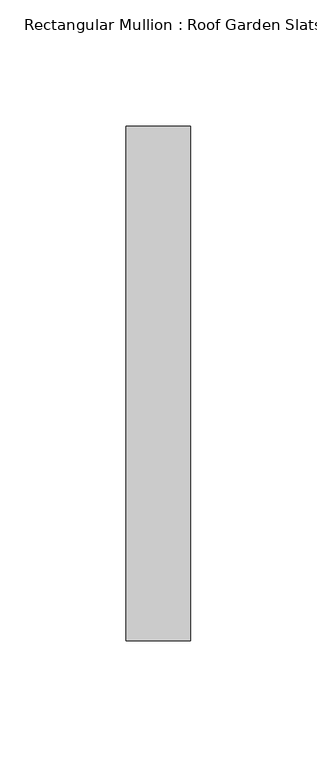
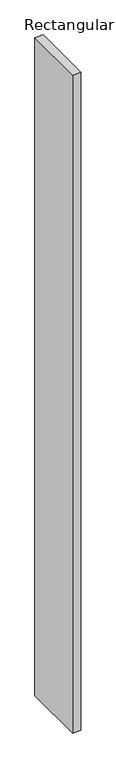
"""IFC4 building model written with IfcOpenShell, lengths in millimetres: member geometry, Rectangular Mullion : Roof Garden Slats."""

import ifcopenshell
import ifcopenshell.guid

model = None  # the IFC model being written
_history = None  # IfcOwnerHistory: only IFC2X3 demands one
_inside = {}  # id of a spatial element -> (the spatial element, [elements in it])
_under = {}  # id of a project, library or spatial element -> (it, [spatial elements below it])
_declared = {}  # id of a project -> (the project, [libraries it declares])
_typed = {}  # id of a type object -> (the type object, [elements of that type])
_made_of = {}  # id of a material, layer set ... -> (it, [elements and type objects made of it])


def new_model(schema):
    """Start an empty IFC model of exactly this schema.

    Asked for "IFC4X3", IfcOpenShell would pick the latest addendum, in which some entities
    have other attributes; the version numbers below select the first issue.
    IFC2X3 requires an IfcOwnerHistory on every rooted entity: one is made here for all.
    """
    global model, _history
    if schema == "IFC4X3":
        model = ifcopenshell.file(schema_version=(4, 3, 0, 0))
    else:
        model = ifcopenshell.file(schema=schema)
    _inside.clear()
    _under.clear()
    _declared.clear()
    _typed.clear()
    _made_of.clear()
    _history = None
    if model.schema == "IFC2X3":
        org = make("IfcOrganization", Name="unknown")
        user = make(
            "IfcPersonAndOrganization",
            ThePerson=make("IfcPerson", FamilyName="unknown"),
            TheOrganization=org,
        )
        app = make(
            "IfcApplication",
            ApplicationDeveloper=org,
            Version="unknown",
            ApplicationFullName="unknown",
            ApplicationIdentifier="unknown",
        )
        _history = make(
            "IfcOwnerHistory",
            OwningUser=user,
            OwningApplication=app,
            ChangeAction="ADDED",
            CreationDate=0,
        )
    return model


def make(cls, **values):
    """One entity of the class cls with the attributes given. An attribute that is None is left unset."""
    return model.create_entity(
        cls, **{name: value for name, value in values.items() if value is not None}
    )


def rooted(cls, **values):
    """An entity with a GlobalId (a new one), such as an element, a storey or a relation."""
    return make(cls, GlobalId=ifcopenshell.guid.new(), OwnerHistory=_history, **values)


def si_unit(unit_type, name, prefix=None):
    """IfcSIUnit, for example si_unit("LENGTHUNIT", "METRE", prefix="MILLI")."""
    return make("IfcSIUnit", UnitType=unit_type, Prefix=prefix, Name=name)


def assignment(units):
    """IfcUnitAssignment: the units of a project."""
    return None if units is None else make("IfcUnitAssignment", Units=units)


def point(xyz):
    """IfcCartesianPoint."""
    return None if xyz is None else make("IfcCartesianPoint", Coordinates=xyz)


def direction(xyz):
    """IfcDirection."""
    return None if xyz is None else make("IfcDirection", DirectionRatios=xyz)


def frame(location, z_axis=None, x_axis=None):
    """IfcAxis2Placement3D, a coordinate frame: its origin and axes. An axis left out is left unset."""
    return make(
        "IfcAxis2Placement3D",
        Location=point(location),
        Axis=direction(z_axis),
        RefDirection=direction(x_axis),
    )


def origin():
    """The frame at (0, 0, 0) with its axes left unset."""
    return frame((0.0, 0.0, 0.0))


def place(relative_to, where):
    """IfcLocalPlacement: puts the frame where relative to a parent placement (None: the world)."""
    return make(
        "IfcLocalPlacement", PlacementRelTo=relative_to, RelativePlacement=where
    )


def context(
    kind, dimensions, precision=None, world=None, true_north=None, identifier=None
):
    """IfcGeometricRepresentationContext, for example the 3D "Model" context."""
    return make(
        "IfcGeometricRepresentationContext",
        ContextIdentifier=identifier,
        ContextType=kind,
        CoordinateSpaceDimension=dimensions,
        Precision=precision,
        WorldCoordinateSystem=world,
        TrueNorth=true_north,
    )


def project(units=None, contexts=None):
    """IfcProject with its units and contexts."""
    return rooted(
        "IfcProject",
        Name="project",
        RepresentationContexts=contexts,
        UnitsInContext=assignment(units),
    )


def spatial(cls, under=None, at=None, **own):
    """A site, building, storey or space (cls), placed at a placement, below another one or the project."""
    s = rooted(cls, ObjectPlacement=at, **own)
    if under is not None:
        _under.setdefault(under.id(), (under, []))[1].append(s)
    return s


def polyline(points):
    """IfcPolyline through the points."""
    return make("IfcPolyline", Points=[point(p) for p in points])


def outline(outer, holes=None, kind="AREA"):
    """IfcArbitraryClosedProfileDef: a profile drawn as a closed curve; with holes, ...WithVoids."""
    if holes is None:
        return make("IfcArbitraryClosedProfileDef", ProfileType=kind, OuterCurve=outer)
    return make(
        "IfcArbitraryProfileDefWithVoids",
        ProfileType=kind,
        OuterCurve=outer,
        InnerCurves=holes,
    )


def extrude(swept, where, along, depth):
    """IfcExtrudedAreaSolid: the profile swept, set in the frame where, extruded along a direction by depth."""
    return make(
        "IfcExtrudedAreaSolid",
        SweptArea=swept,
        Position=where,
        ExtrudedDirection=direction(along),
        Depth=depth,
    )


def shape(context_of_items, identifier, shape_type, items):
    """IfcShapeRepresentation: the items that make up one representation, for example the "Body"."""
    return make(
        "IfcShapeRepresentation",
        ContextOfItems=context_of_items,
        RepresentationIdentifier=identifier,
        RepresentationType=shape_type,
        Items=items,
    )


def source(mapping_origin, context_of_items, identifier, shape_type, items):
    """IfcRepresentationMap: a shape defined once, which mapped items show again and again."""
    return make(
        "IfcRepresentationMap",
        MappingOrigin=mapping_origin,
        MappedRepresentation=shape(context_of_items, identifier, shape_type, items),
    )


def transform(
    local_origin,
    x_axis=None,
    y_axis=None,
    z_axis=None,
    scale=None,
    scale2=None,
    scale3=None,
    uniform=True,
):
    """IfcCartesianTransformationOperator3D, or its non-uniform kind. x_axis, y_axis, z_axis: its Axis1, 2, 3."""
    if uniform:
        return make(
            "IfcCartesianTransformationOperator3D",
            Axis1=direction(x_axis),
            Axis2=direction(y_axis),
            LocalOrigin=point(local_origin),
            Scale=scale,
            Axis3=direction(z_axis),
        )
    return make(
        "IfcCartesianTransformationOperator3DnonUniform",
        Axis1=direction(x_axis),
        Axis2=direction(y_axis),
        LocalOrigin=point(local_origin),
        Scale=scale,
        Axis3=direction(z_axis),
        Scale2=scale2,
        Scale3=scale3,
    )


def mapped(mapping_source, mapping_target):
    """IfcMappedItem: shows the shape of a source again, moved by a transform."""
    return make(
        "IfcMappedItem", MappingSource=mapping_source, MappingTarget=mapping_target
    )


def made_of(thing, what):
    """Note that an element or type object is made of a material, layer set ...; save() writes the relation."""
    if what is not None:
        _made_of.setdefault(what.id(), (what, []))[1].append(thing)
    return thing


def element(
    cls,
    number,
    at=None,
    inside=None,
    cuts=None,
    type_object=None,
    material=None,
    context=None,
    identifier="Body",
    shape_type=None,
    held_by="IfcProductDefinitionShape",
    body=None,
    shapes=None,
    **own,
):
    """One element of the class cls, such as IfcWall. Its Tag is "e" and its number.

    at: its placement. inside: the storey or other place that contains it. cuts: it is an
    opening in that element (IfcRelVoidsElement). A single representation is given by context,
    identifier, shape_type and body (its items); several are given by shapes. held_by: the class
    of the entity that holds the representations. save() writes the other relations.
    """
    e = rooted(cls, Tag="e%d" % number, ObjectPlacement=at, **own)
    if body is not None:
        shapes = [shape(context, identifier, shape_type, body)]
    if shapes is not None:
        e.Representation = make(held_by, Representations=shapes)
    if inside is not None:
        _inside.setdefault(inside.id(), (inside, []))[1].append(e)
    if cuts is not None:
        rooted(
            "IfcRelVoidsElement", RelatingBuildingElement=cuts, RelatedOpeningElement=e
        )
    if type_object is not None:
        _typed.setdefault(type_object.id(), (type_object, []))[1].append(e)
    return made_of(e, material)


def aggregate(whole, parts):
    """IfcRelAggregates: a whole, such as a stair, and the parts it consists of."""
    return rooted("IfcRelAggregates", RelatingObject=whole, RelatedObjects=parts)


def save(model, path):
    """Write the relations noted so far, then the file.

    IfcRelAggregates (storeys below a building ...), IfcRelContainedInSpatialStructure (elements
    in a storey), IfcRelDefinesByType, IfcRelAssociatesMaterial and IfcRelDeclares: one each for
    every whole, place, type object, material and project.
    """
    for whole, parts in _under.values():
        aggregate(whole, parts)
    for where, things in _inside.values():
        rooted(
            "IfcRelContainedInSpatialStructure",
            RelatedElements=things,
            RelatingStructure=where,
        )
    for kind, things in _typed.values():
        rooted("IfcRelDefinesByType", RelatedObjects=things, RelatingType=kind)
    for what, things in _made_of.values():
        rooted("IfcRelAssociatesMaterial", RelatedObjects=things, RelatingMaterial=what)
    for by, libraries in _declared.values():
        rooted("IfcRelDeclares", RelatingContext=by, RelatedDefinitions=libraries)
    model.write(path)


def rectangular_mullion_roof_garden_slats_82a913f3(model_context):
    return source(origin(), model_context, "Body", "SweptSolid", [
        extrude(outline(polyline([(12.7, 139.7), (12.7, -63.5), (-12.7, -63.5), (-12.7, 139.7), (12.7, 139.7)])), frame((0.0, 0.0, -2161.8041896), z_axis=(0.0, 0.0, 1.0), x_axis=(1.0, 0.0, 0.0)), (0.0, 0.0, 1.0), 2161.8041896),
    ])


if __name__ == "__main__":
    model = new_model("IFC4")
    model_context = context("Model", 3, world=origin())
    ifc_project = project(units=[si_unit("LENGTHUNIT", "METRE", prefix="MILLI")], contexts=[model_context])
    site = spatial("IfcSite", under=ifc_project)
    building = spatial("IfcBuilding", under=site)
    placement = place(None, origin())
    rectangular_mullion_roof_garden_slats_shape = rectangular_mullion_roof_garden_slats_82a913f3(model_context)
    element("IfcMember", 1, ObjectType="Rectangular Mullion : Roof Garden Slats", at=placement, inside=building, context=model_context, shape_type="MappedRepresentation", body=[
        mapped(rectangular_mullion_roof_garden_slats_shape, transform((0.0, 0.0, 0.0), x_axis=(1.0, 0.0, 0.0), y_axis=(0.0, 1.0, 0.0), z_axis=(0.0, 0.0, 1.0))),
    ])
    save(model, "model.ifc")
